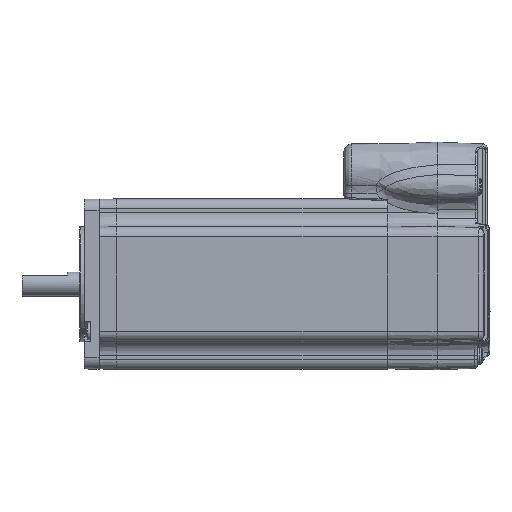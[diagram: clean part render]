
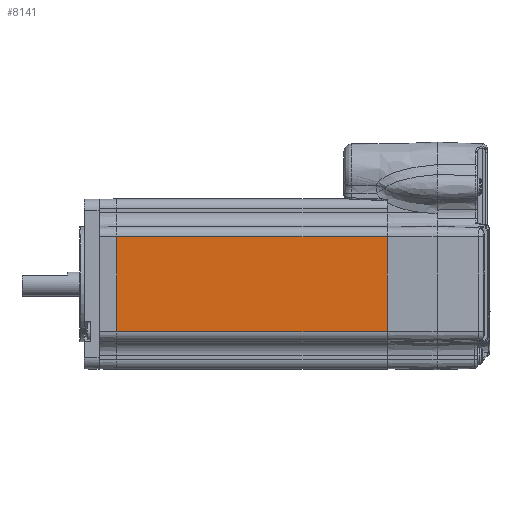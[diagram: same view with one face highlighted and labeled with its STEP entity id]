
A CAD part, left-side view. The second image highlights one B-rep face of the part: STEP entity #8141.
In plain terms, the highlighted planar face has unit normal (-1, 0, 0).
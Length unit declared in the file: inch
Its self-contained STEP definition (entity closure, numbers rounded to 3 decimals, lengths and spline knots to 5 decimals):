
#5176=VERTEX_POINT('',#14256);
#6336=EDGE_CURVE('MDrive23Plus,  Quad Stack, P1 (IO PWR, P)  and  P2 (RD or RL 10-Pin)[3]',#10165,#5176,#15559,.T.);
#7215=EDGE_CURVE('MDrive23Plus,  Quad Stack, P1 (IO PWR, P)  and  P2 (RD or RL 10-Pin)[3]',#5176,#11916,#16545,.T.);
#7250=EDGE_CURVE('MDrive23Plus,  Quad Stack, P1 (IO PWR, P)  and  P2 (RD or RL 10-Pin)[3]',#11916,#11385,#16584,.T.);
#8141=ADVANCED_FACE('MDrive23Plus,  Quad Stack, P1 (IO PWR, P)  and  P2 (RD or RL 10-Pin)[3]',(#17568),#17569,.T.);
#10165=VERTEX_POINT('',#19784);
#11318=EDGE_CURVE('MDrive23Plus,  Quad Stack, P1 (IO PWR, P)  and  P2 (RD or RL 10-Pin)[3]',#10165,#11385,#21073,.F.);
#11385=VERTEX_POINT('',#21147);
#11916=VERTEX_POINT('',#21738);
#14256=CARTESIAN_POINT('',(-1.96149,1.57521,0.56486));
#15559=LINE('',#31000,#31001);
#16545=LINE('',#34346,#34347);
#16584=LINE('',#34419,#34420);
#17568=FACE_OUTER_BOUND('',#38008,.T.);
#17569=PLANE('',#38009);
#19784=CARTESIAN_POINT('',(-1.96149,5.09297,0.56486));
#21073=LINE('',#49741,#49742);
#21147=CARTESIAN_POINT('',(-1.96149,5.09297,-0.67063));
#21738=CARTESIAN_POINT('',(-1.96149,1.57521,-0.67063));
#31000=CARTESIAN_POINT('',(-1.96149,1.57521,0.56486));
#31001=VECTOR('',#57994,1.0);
#34346=CARTESIAN_POINT('',(-1.96149,1.57521,-0.73244));
#34347=VECTOR('',#58826,1.33373);
#34419=CARTESIAN_POINT('',(-1.96149,1.57521,-0.67063));
#34420=VECTOR('',#58855,1.0);
#38008=EDGE_LOOP('',(#59664,#59665,#59666,#59667));
#38009=AXIS2_PLACEMENT_3D('',#59668,#59669,#59670);
#49741=CARTESIAN_POINT('',(-1.96149,5.09297,0.28689));
#49742=VECTOR('',#62463,1.0);
#57994=DIRECTION('',(0.0,-1.0,0.0));
#58826=DIRECTION('',(0.0,0.0,-1.0));
#58855=DIRECTION('',(0.0,1.0,0.0));
#59664=ORIENTED_EDGE('',*,*,#7250,.F.);
#59665=ORIENTED_EDGE('',*,*,#7215,.F.);
#59666=ORIENTED_EDGE('',*,*,#6336,.F.);
#59667=ORIENTED_EDGE('',*,*,#11318,.T.);
#59668=CARTESIAN_POINT('',(-1.96149,1.57521,0.62667));
#59669=DIRECTION('',(-1.0,0.0,0.0));
#59670=DIRECTION('',(0.0,0.0,1.0));
#62463=DIRECTION('',(0.0,0.0,1.0));
